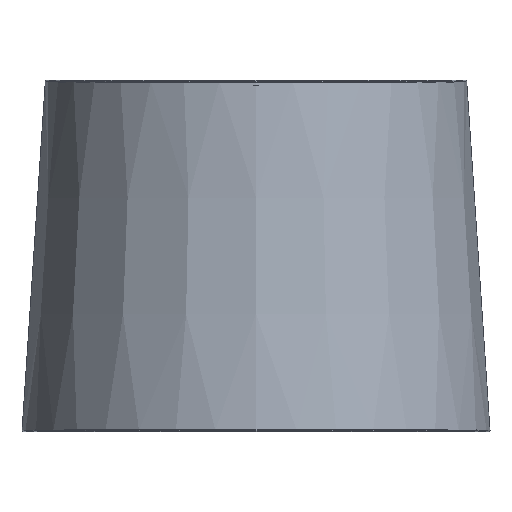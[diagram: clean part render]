
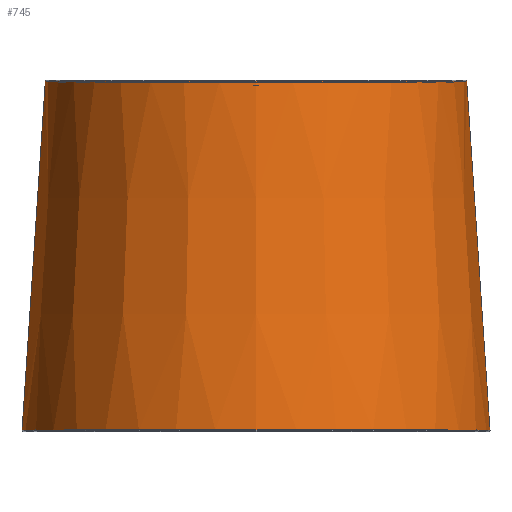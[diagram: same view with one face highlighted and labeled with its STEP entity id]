
A CAD part, left-side view. The second image highlights one B-rep face of the part: STEP entity #745.
In plain terms, the highlighted conical face has half-angle 3.814 degrees and reference radius 197.944 mm.
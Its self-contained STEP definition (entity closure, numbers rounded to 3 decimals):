
#23=CONICAL_SURFACE('',#828,197.944,0.067);
#93=FACE_OUTER_BOUND('',#149,.T.);
#149=EDGE_LOOP('',(#580,#581,#582,#583));
#198=CIRCLE('',#829,180.041);
#199=CIRCLE('',#830,199.933);
#240=LINE('',#1359,#280);
#241=LINE('',#1362,#281);
#280=VECTOR('',#990,304.8);
#281=VECTOR('',#993,304.8);
#350=VERTEX_POINT('',#1355);
#351=VERTEX_POINT('',#1356);
#352=VERTEX_POINT('',#1358);
#353=VERTEX_POINT('',#1360);
#427=EDGE_CURVE('',#352,#350,#240,.T.);
#429=EDGE_CURVE('',#351,#353,#241,.T.);
#430=EDGE_CURVE('',#351,#350,#198,.T.);
#431=EDGE_CURVE('',#352,#353,#199,.T.);
#580=ORIENTED_EDGE('',*,*,#430,.F.);
#581=ORIENTED_EDGE('',*,*,#429,.T.);
#582=ORIENTED_EDGE('',*,*,#431,.F.);
#583=ORIENTED_EDGE('',*,*,#427,.T.);
#745=ADVANCED_FACE('',(#93),#23,.T.);
#828=AXIS2_PLACEMENT_3D('',#1363,#994,#995);
#829=AXIS2_PLACEMENT_3D('',#1364,#996,#997);
#830=AXIS2_PLACEMENT_3D('',#1365,#998,#999);
#990=DIRECTION('',(0.,0.067,0.998));
#993=DIRECTION('',(0.,0.067,-0.998));
#994=DIRECTION('center_axis',(0.,0.,
-1.));
#995=DIRECTION('ref_axis',(-0.588,0.809,0.));
#996=DIRECTION('center_axis',(0.,0.,
1.));
#997=DIRECTION('ref_axis',(-0.588,0.809,0.));
#998=DIRECTION('center_axis',(0.,0.,
-1.));
#999=DIRECTION('ref_axis',(-0.588,0.809,0.));
#1355=CARTESIAN_POINT('',(0.,-180.041,299.381));
#1356=CARTESIAN_POINT('',(0.,180.041,299.381));
#1358=CARTESIAN_POINT('',(0.,-199.933,1.));
#1359=CARTESIAN_POINT('',(0.,-199.933,1.));
#1360=CARTESIAN_POINT('',(0.,199.933,1.));
#1362=CARTESIAN_POINT('',(0.,180.041,299.381));
#1363=CARTESIAN_POINT('Origin',(0.,0.,
30.838));
#1364=CARTESIAN_POINT('Origin',(0.,0.,
299.381));
#1365=CARTESIAN_POINT('Origin',(0.,0.,
1.));
